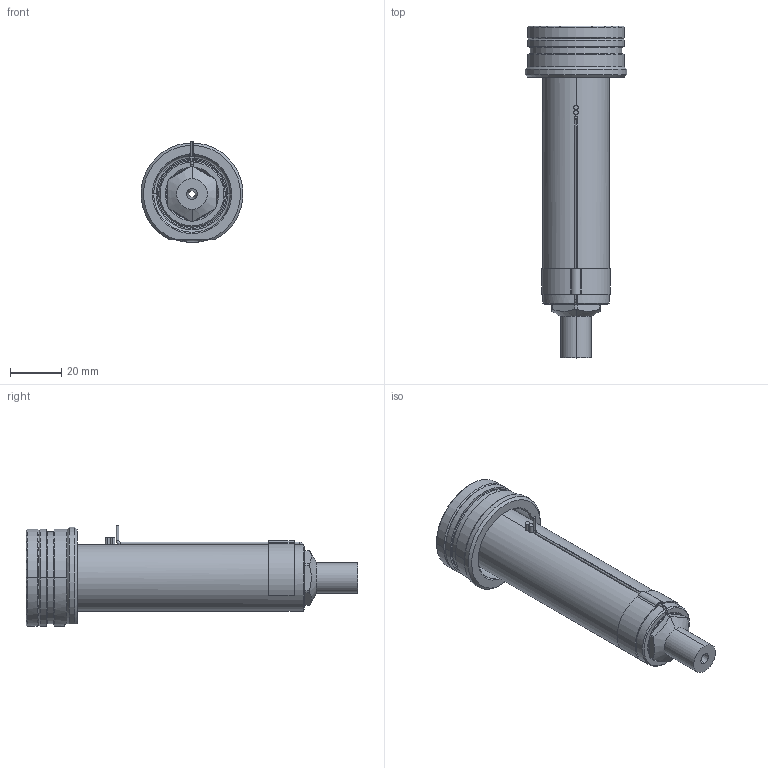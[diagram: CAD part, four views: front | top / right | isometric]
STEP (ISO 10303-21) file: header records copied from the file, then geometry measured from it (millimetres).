
FILE_DESCRIPTION((''),'2;1');
FILE_NAME('EO08_VG-FBE_STD_100_SW','2024-02-19T13:54:21',('sundharh'),(''),'CREO PARAMETRIC BY PTC INC, 2023154','CREO PARAMETRIC BY PTC INC, 2023154','');
FILE_SCHEMA(('CONFIG_CONTROL_DESIGN'));
Length unit declared in the file: millimetre
Products named in the file (1): EO08_VG-FBE_STD_100_SW
Bounding box: 39.88 x 130 x 39.52 mm (x, y, z)
Volume: 64997.1 mm3; surface area: 19793.1 mm2
Topology: 1 solids, 1 shells, 205 faces, 498 edges, 302 vertices
Faces by surface type: cylinder 72, plane 47, cone 43, torus 29, bspline 12, sphere 2
Entity records: 7387 total; most frequent: CARTESIAN_POINT 2465, DIRECTION 1105, ORIENTED_EDGE 992, EDGE_CURVE 496, AXIS2_PLACEMENT_3D 465, VERTEX_POINT 302, CIRCLE 272, EDGE_LOOP 222
